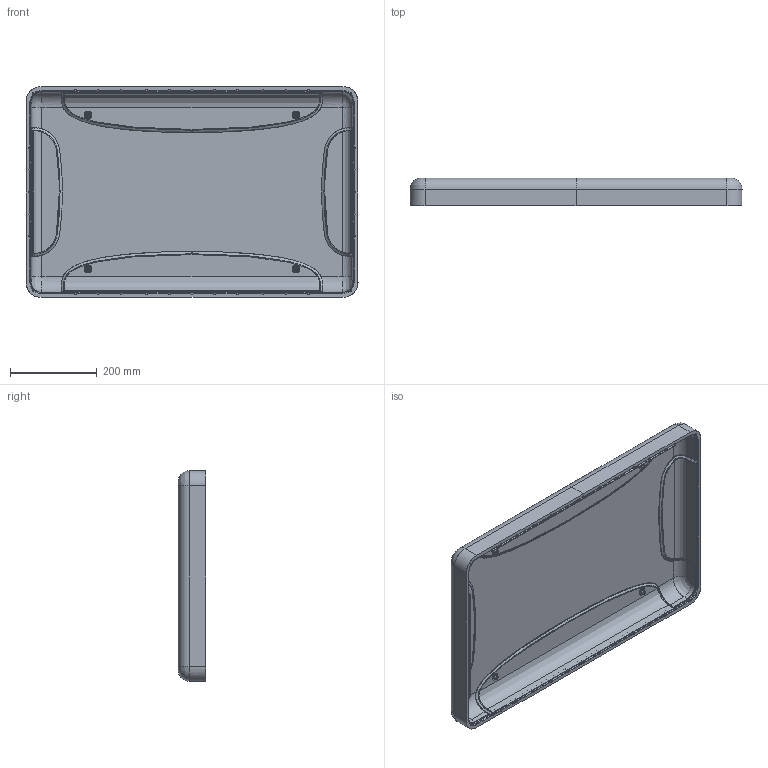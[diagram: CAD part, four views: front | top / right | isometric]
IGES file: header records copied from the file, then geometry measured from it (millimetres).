
Start section: SolidWorks IGES file using analytic representation for surfaces
Global section: file name: Z:\Share\NANUK\Solidworks\3D\Cases\963\4 - 3D FILES\4 - INNER SURFACES\963_Top_INNER_SURFACE.IGS; native system: SolidWorks 2018; preprocessor: SolidWorks 2018; author: scharria; date: 191111.142606; units: inch
Bounding box: 766.04 x 63.5 x 486.64 mm (x, y, z)
Surface area: 988771.6 mm2 (no closed solid volume)
Topology: 0 solids, 0 shells, 1156 faces, 14228 edges, 14228 vertices
Faces by surface type: bspline 866, revolution 290
